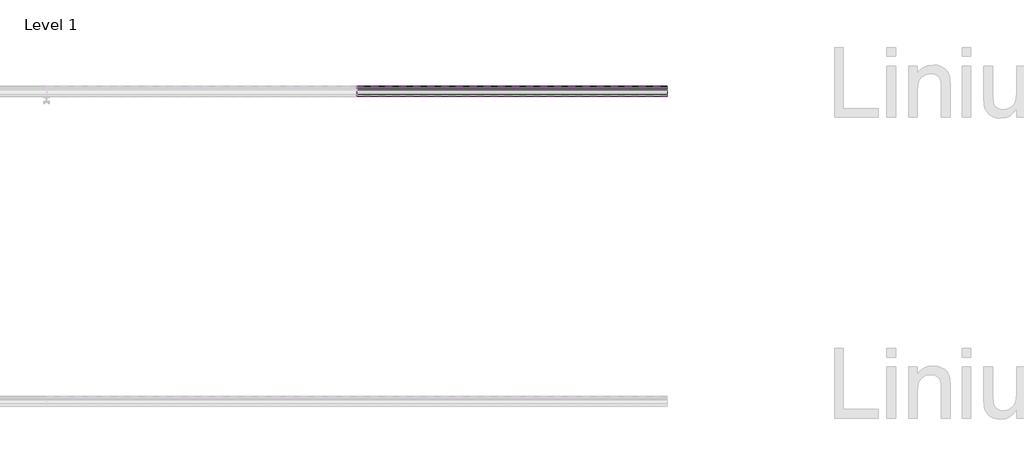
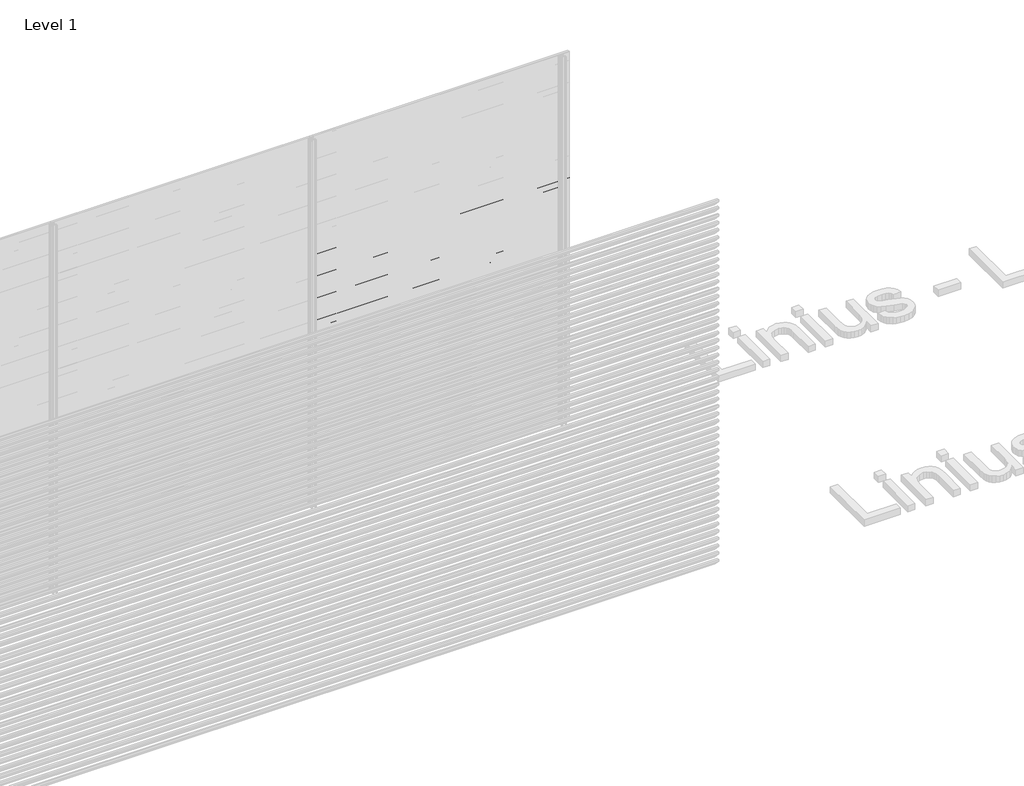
# One storey, part 60 of 153: 33 proxies.
"""IFC4 building model written with IfcOpenShell, lengths in millimetres."""

from ifc_helpers import new_model, si_unit, point, frame, frame_2d, origin, place, context, project, spatial, polyline, circle_curve, trimmed, segment, composite_curve, outline, extrude, element, save

model = new_model("IFC4")

# Units and contexts
model_context = context("Model", 3, world=origin())
ifc_project = project(units=[si_unit("LENGTHUNIT", "METRE", prefix="MILLI")], contexts=[model_context])

# Site, building, storey
site = spatial("IfcSite", under=ifc_project)
building = spatial("IfcBuilding", under=site)
storey = spatial("IfcBuildingStorey", under=building, Name="Level 1", Elevation=0.0)

# Proxies
placement = place(None, origin())
element("IfcBuildingElementProxy", 1, Name="Wall Sweeps", at=placement, inside=storey, context=model_context, shape_type="SweptSolid", body=[
    extrude(outline(composite_curve([segment(polyline([(21485.0540136, 2100.0), (21499.874191, 2098.7034025), (21549.0540136, 2045.0102749), (21549.0540136, 2033.6108187)]), True, "CONTINUOUS"), segment(trimmed(circle_curve(frame_2d((21545.7883652, 2033.897153)), 3.2781774), [point((21549.0540136, 2033.6108187))], [point((21546.4639442, 2030.6893438))], False, "CARTESIAN"), True, "CONTINUOUS"), segment(polyline([(21546.4639442, 2030.6893438), (21534.1895723, 2031.6282758), (21485.0540136, 2085.2730773), (21485.0540136, 2100.0)]), True, "CONTINUOUS")], self_intersect=False), holes=[composite_curve([segment(polyline([(21499.1621773, 2097.2599659), (21486.5540136, 2098.3630372), (21486.5540136, 2085.856213), (21534.8952036, 2033.0786805), (21546.3312542, 2032.2038762)]), True, "CONTINUOUS"), segment(trimmed(circle_curve(frame_2d((21545.7883652, 2033.897153)), 1.7781774), [point((21546.3312542, 2032.2038762))], [point((21547.5540136, 2033.6864389))], True, "CARTESIAN"), True, "CONTINUOUS"), segment(polyline([(21547.5540136, 2033.6864389), (21547.5540136, 2044.4271392), (21499.1621773, 2097.2599659)]), True, "CONTINUOUS")], self_intersect=False)]), frame((48966.6208096, 0.0, 0.0), z_axis=(1.0, 0.0, 0.0), x_axis=(0.0, 1.0, 0.0)), (0.0, 0.0, 1.0), 2000.0000001),
])
element("IfcBuildingElementProxy", 2, Name="Wall Sweeps", at=placement, inside=storey, context=model_context, shape_type="SweptSolid", body=[
    extrude(outline(composite_curve([segment(polyline([(21485.0540136, 2040.0), (21499.874191, 2038.7034025), (21549.0540136, 1985.0102749), (21549.0540136, 1973.6108187)]), True, "CONTINUOUS"), segment(trimmed(circle_curve(frame_2d((21545.7883652, 1973.897153)), 3.2781774), [point((21549.0540136, 1973.6108187))], [point((21546.4639442, 1970.6893438))], False, "CARTESIAN"), True, "CONTINUOUS"), segment(polyline([(21546.4639442, 1970.6893438), (21534.1895723, 1971.6282758), (21485.0540136, 2025.2730773), (21485.0540136, 2040.0)]), True, "CONTINUOUS")], self_intersect=False), holes=[composite_curve([segment(polyline([(21499.1621773, 2037.2599659), (21486.5540136, 2038.3630372), (21486.5540136, 2025.856213), (21534.8952036, 1973.0786805), (21546.3312542, 1972.2038762)]), True, "CONTINUOUS"), segment(trimmed(circle_curve(frame_2d((21545.7883652, 1973.897153)), 1.7781774), [point((21546.3312542, 1972.2038762))], [point((21547.5540136, 1973.6864389))], True, "CARTESIAN"), True, "CONTINUOUS"), segment(polyline([(21547.5540136, 1973.6864389), (21547.5540136, 1984.4271392), (21499.1621773, 2037.2599659)]), True, "CONTINUOUS")], self_intersect=False)]), frame((48966.6208096, 0.0, 0.0), z_axis=(1.0, 0.0, 0.0), x_axis=(0.0, 1.0, 0.0)), (0.0, 0.0, 1.0), 2000.0000001),
])
element("IfcBuildingElementProxy", 3, Name="Wall Sweeps", at=placement, inside=storey, context=model_context, shape_type="SweptSolid", body=[
    extrude(outline(composite_curve([segment(polyline([(21485.0540136, 1980.0), (21499.874191, 1978.7034025), (21549.0540136, 1925.0102749), (21549.0540136, 1913.6108187)]), True, "CONTINUOUS"), segment(trimmed(circle_curve(frame_2d((21545.7883652, 1913.897153)), 3.2781774), [point((21549.0540136, 1913.6108187))], [point((21546.4639442, 1910.6893438))], False, "CARTESIAN"), True, "CONTINUOUS"), segment(polyline([(21546.4639442, 1910.6893438), (21534.1895723, 1911.6282758), (21485.0540136, 1965.2730773), (21485.0540136, 1980.0)]), True, "CONTINUOUS")], self_intersect=False), holes=[composite_curve([segment(polyline([(21499.1621773, 1977.2599659), (21486.5540136, 1978.3630372), (21486.5540136, 1965.856213), (21534.8952036, 1913.0786805), (21546.3312542, 1912.2038762)]), True, "CONTINUOUS"), segment(trimmed(circle_curve(frame_2d((21545.7883652, 1913.897153)), 1.7781774), [point((21546.3312542, 1912.2038762))], [point((21547.5540136, 1913.6864389))], True, "CARTESIAN"), True, "CONTINUOUS"), segment(polyline([(21547.5540136, 1913.6864389), (21547.5540136, 1924.4271392), (21499.1621773, 1977.2599659)]), True, "CONTINUOUS")], self_intersect=False)]), frame((48966.6208096, 0.0, 0.0), z_axis=(1.0, 0.0, 0.0), x_axis=(0.0, 1.0, 0.0)), (0.0, 0.0, 1.0), 2000.0000001),
])
element("IfcBuildingElementProxy", 4, Name="Wall Sweeps", at=placement, inside=storey, context=model_context, shape_type="SweptSolid", body=[
    extrude(outline(composite_curve([segment(polyline([(21485.0540136, 1920.0), (21499.874191, 1918.7034025), (21549.0540136, 1865.0102749), (21549.0540136, 1853.6108187)]), True, "CONTINUOUS"), segment(trimmed(circle_curve(frame_2d((21545.7883652, 1853.897153)), 3.2781774), [point((21549.0540136, 1853.6108187))], [point((21546.4639442, 1850.6893438))], False, "CARTESIAN"), True, "CONTINUOUS"), segment(polyline([(21546.4639442, 1850.6893438), (21534.1895723, 1851.6282758), (21485.0540136, 1905.2730773), (21485.0540136, 1920.0)]), True, "CONTINUOUS")], self_intersect=False), holes=[composite_curve([segment(polyline([(21499.1621773, 1917.2599659), (21486.5540136, 1918.3630372), (21486.5540136, 1905.856213), (21534.8952036, 1853.0786805), (21546.3312542, 1852.2038762)]), True, "CONTINUOUS"), segment(trimmed(circle_curve(frame_2d((21545.7883652, 1853.897153)), 1.7781774), [point((21546.3312542, 1852.2038762))], [point((21547.5540136, 1853.6864389))], True, "CARTESIAN"), True, "CONTINUOUS"), segment(polyline([(21547.5540136, 1853.6864389), (21547.5540136, 1864.4271392), (21499.1621773, 1917.2599659)]), True, "CONTINUOUS")], self_intersect=False)]), frame((48966.6208096, 0.0, 0.0), z_axis=(1.0, 0.0, 0.0), x_axis=(0.0, 1.0, 0.0)), (0.0, 0.0, 1.0), 2000.0000001),
])
element("IfcBuildingElementProxy", 5, Name="Wall Sweeps", at=placement, inside=storey, context=model_context, shape_type="SweptSolid", body=[
    extrude(outline(composite_curve([segment(polyline([(21485.0540136, 1860.0), (21499.874191, 1858.7034025), (21549.0540136, 1805.0102749), (21549.0540136, 1793.6108187)]), True, "CONTINUOUS"), segment(trimmed(circle_curve(frame_2d((21545.7883652, 1793.897153)), 3.2781774), [point((21549.0540136, 1793.6108187))], [point((21546.4639442, 1790.6893438))], False, "CARTESIAN"), True, "CONTINUOUS"), segment(polyline([(21546.4639442, 1790.6893438), (21534.1895723, 1791.6282758), (21485.0540136, 1845.2730773), (21485.0540136, 1860.0)]), True, "CONTINUOUS")], self_intersect=False), holes=[composite_curve([segment(polyline([(21499.1621773, 1857.2599659), (21486.5540136, 1858.3630372), (21486.5540136, 1845.856213), (21534.8952036, 1793.0786805), (21546.3312542, 1792.2038762)]), True, "CONTINUOUS"), segment(trimmed(circle_curve(frame_2d((21545.7883652, 1793.897153)), 1.7781774), [point((21546.3312542, 1792.2038762))], [point((21547.5540136, 1793.6864389))], True, "CARTESIAN"), True, "CONTINUOUS"), segment(polyline([(21547.5540136, 1793.6864389), (21547.5540136, 1804.4271392), (21499.1621773, 1857.2599659)]), True, "CONTINUOUS")], self_intersect=False)]), frame((48966.6208096, 0.0, 0.0), z_axis=(1.0, 0.0, 0.0), x_axis=(0.0, 1.0, 0.0)), (0.0, 0.0, 1.0), 2000.0000001),
])
element("IfcBuildingElementProxy", 6, Name="Wall Sweeps", at=placement, inside=storey, context=model_context, shape_type="SweptSolid", body=[
    extrude(outline(composite_curve([segment(polyline([(21485.0540136, 1800.0), (21499.874191, 1798.7034025), (21549.0540136, 1745.0102749), (21549.0540136, 1733.6108187)]), True, "CONTINUOUS"), segment(trimmed(circle_curve(frame_2d((21545.7883652, 1733.897153)), 3.2781774), [point((21549.0540136, 1733.6108187))], [point((21546.4639442, 1730.6893438))], False, "CARTESIAN"), True, "CONTINUOUS"), segment(polyline([(21546.4639442, 1730.6893438), (21534.1895723, 1731.6282758), (21485.0540136, 1785.2730773), (21485.0540136, 1800.0)]), True, "CONTINUOUS")], self_intersect=False), holes=[composite_curve([segment(polyline([(21499.1621773, 1797.2599659), (21486.5540136, 1798.3630372), (21486.5540136, 1785.856213), (21534.8952036, 1733.0786805), (21546.3312542, 1732.2038762)]), True, "CONTINUOUS"), segment(trimmed(circle_curve(frame_2d((21545.7883652, 1733.897153)), 1.7781774), [point((21546.3312542, 1732.2038762))], [point((21547.5540136, 1733.6864389))], True, "CARTESIAN"), True, "CONTINUOUS"), segment(polyline([(21547.5540136, 1733.6864389), (21547.5540136, 1744.4271392), (21499.1621773, 1797.2599659)]), True, "CONTINUOUS")], self_intersect=False)]), frame((48966.6208096, 0.0, 0.0), z_axis=(1.0, 0.0, 0.0), x_axis=(0.0, 1.0, 0.0)), (0.0, 0.0, 1.0), 2000.0000001),
])
element("IfcBuildingElementProxy", 7, Name="Wall Sweeps", at=placement, inside=storey, context=model_context, shape_type="SweptSolid", body=[
    extrude(outline(composite_curve([segment(polyline([(21485.0540136, 1740.0), (21499.874191, 1738.7034025), (21549.0540136, 1685.0102749), (21549.0540136, 1673.6108187)]), True, "CONTINUOUS"), segment(trimmed(circle_curve(frame_2d((21545.7883652, 1673.897153)), 3.2781774), [point((21549.0540136, 1673.6108187))], [point((21546.4639442, 1670.6893438))], False, "CARTESIAN"), True, "CONTINUOUS"), segment(polyline([(21546.4639442, 1670.6893438), (21534.1895723, 1671.6282758), (21485.0540136, 1725.2730773), (21485.0540136, 1740.0)]), True, "CONTINUOUS")], self_intersect=False), holes=[composite_curve([segment(polyline([(21499.1621773, 1737.2599659), (21486.5540136, 1738.3630372), (21486.5540136, 1725.856213), (21534.8952036, 1673.0786805), (21546.3312542, 1672.2038762)]), True, "CONTINUOUS"), segment(trimmed(circle_curve(frame_2d((21545.7883652, 1673.897153)), 1.7781774), [point((21546.3312542, 1672.2038762))], [point((21547.5540136, 1673.6864389))], True, "CARTESIAN"), True, "CONTINUOUS"), segment(polyline([(21547.5540136, 1673.6864389), (21547.5540136, 1684.4271392), (21499.1621773, 1737.2599659)]), True, "CONTINUOUS")], self_intersect=False)]), frame((48966.6208096, 0.0, 0.0), z_axis=(1.0, 0.0, 0.0), x_axis=(0.0, 1.0, 0.0)), (0.0, 0.0, 1.0), 2000.0000001),
])
element("IfcBuildingElementProxy", 8, Name="Wall Sweeps", at=placement, inside=storey, context=model_context, shape_type="SweptSolid", body=[
    extrude(outline(composite_curve([segment(polyline([(21485.0540136, 1680.0), (21499.874191, 1678.7034025), (21549.0540136, 1625.0102749), (21549.0540136, 1613.6108187)]), True, "CONTINUOUS"), segment(trimmed(circle_curve(frame_2d((21545.7883652, 1613.897153)), 3.2781774), [point((21549.0540136, 1613.6108187))], [point((21546.4639442, 1610.6893438))], False, "CARTESIAN"), True, "CONTINUOUS"), segment(polyline([(21546.4639442, 1610.6893438), (21534.1895723, 1611.6282758), (21485.0540136, 1665.2730773), (21485.0540136, 1680.0)]), True, "CONTINUOUS")], self_intersect=False), holes=[composite_curve([segment(polyline([(21499.1621773, 1677.2599659), (21486.5540136, 1678.3630372), (21486.5540136, 1665.856213), (21534.8952036, 1613.0786805), (21546.3312542, 1612.2038762)]), True, "CONTINUOUS"), segment(trimmed(circle_curve(frame_2d((21545.7883652, 1613.897153)), 1.7781774), [point((21546.3312542, 1612.2038762))], [point((21547.5540136, 1613.6864389))], True, "CARTESIAN"), True, "CONTINUOUS"), segment(polyline([(21547.5540136, 1613.6864389), (21547.5540136, 1624.4271392), (21499.1621773, 1677.2599659)]), True, "CONTINUOUS")], self_intersect=False)]), frame((48966.6208096, 0.0, 0.0), z_axis=(1.0, 0.0, 0.0), x_axis=(0.0, 1.0, 0.0)), (0.0, 0.0, 1.0), 2000.0000001),
])
element("IfcBuildingElementProxy", 9, Name="Wall Sweeps", at=placement, inside=storey, context=model_context, shape_type="SweptSolid", body=[
    extrude(outline(composite_curve([segment(polyline([(21485.0540136, 1620.0), (21499.874191, 1618.7034025), (21549.0540136, 1565.0102749), (21549.0540136, 1553.6108187)]), True, "CONTINUOUS"), segment(trimmed(circle_curve(frame_2d((21545.7883652, 1553.897153)), 3.2781774), [point((21549.0540136, 1553.6108187))], [point((21546.4639442, 1550.6893438))], False, "CARTESIAN"), True, "CONTINUOUS"), segment(polyline([(21546.4639442, 1550.6893438), (21534.1895723, 1551.6282758), (21485.0540136, 1605.2730773), (21485.0540136, 1620.0)]), True, "CONTINUOUS")], self_intersect=False), holes=[composite_curve([segment(polyline([(21499.1621773, 1617.2599659), (21486.5540136, 1618.3630372), (21486.5540136, 1605.856213), (21534.8952036, 1553.0786805), (21546.3312542, 1552.2038762)]), True, "CONTINUOUS"), segment(trimmed(circle_curve(frame_2d((21545.7883652, 1553.897153)), 1.7781774), [point((21546.3312542, 1552.2038762))], [point((21547.5540136, 1553.6864389))], True, "CARTESIAN"), True, "CONTINUOUS"), segment(polyline([(21547.5540136, 1553.6864389), (21547.5540136, 1564.4271392), (21499.1621773, 1617.2599659)]), True, "CONTINUOUS")], self_intersect=False)]), frame((48966.6208096, 0.0, 0.0), z_axis=(1.0, 0.0, 0.0), x_axis=(0.0, 1.0, 0.0)), (0.0, 0.0, 1.0), 2000.0000001),
])
element("IfcBuildingElementProxy", 10, Name="Wall Sweeps", at=placement, inside=storey, context=model_context, shape_type="SweptSolid", body=[
    extrude(outline(composite_curve([segment(polyline([(21485.0540136, 1560.0), (21499.874191, 1558.7034025), (21549.0540136, 1505.0102749), (21549.0540136, 1493.6108187)]), True, "CONTINUOUS"), segment(trimmed(circle_curve(frame_2d((21545.7883652, 1493.897153)), 3.2781774), [point((21549.0540136, 1493.6108187))], [point((21546.4639442, 1490.6893438))], False, "CARTESIAN"), True, "CONTINUOUS"), segment(polyline([(21546.4639442, 1490.6893438), (21534.1895723, 1491.6282758), (21485.0540136, 1545.2730773), (21485.0540136, 1560.0)]), True, "CONTINUOUS")], self_intersect=False), holes=[composite_curve([segment(polyline([(21499.1621773, 1557.2599659), (21486.5540136, 1558.3630372), (21486.5540136, 1545.856213), (21534.8952036, 1493.0786805), (21546.3312542, 1492.2038762)]), True, "CONTINUOUS"), segment(trimmed(circle_curve(frame_2d((21545.7883652, 1493.897153)), 1.7781774), [point((21546.3312542, 1492.2038762))], [point((21547.5540136, 1493.6864389))], True, "CARTESIAN"), True, "CONTINUOUS"), segment(polyline([(21547.5540136, 1493.6864389), (21547.5540136, 1504.4271392), (21499.1621773, 1557.2599659)]), True, "CONTINUOUS")], self_intersect=False)]), frame((48966.6208096, 0.0, 0.0), z_axis=(1.0, 0.0, 0.0), x_axis=(0.0, 1.0, 0.0)), (0.0, 0.0, 1.0), 2000.0000001),
])
element("IfcBuildingElementProxy", 11, Name="Wall Sweeps", at=placement, inside=storey, context=model_context, shape_type="SweptSolid", body=[
    extrude(outline(composite_curve([segment(polyline([(21485.0540136, 1500.0), (21499.874191, 1498.7034025), (21549.0540136, 1445.0102749), (21549.0540136, 1433.6108187)]), True, "CONTINUOUS"), segment(trimmed(circle_curve(frame_2d((21545.7883652, 1433.897153)), 3.2781774), [point((21549.0540136, 1433.6108187))], [point((21546.4639442, 1430.6893438))], False, "CARTESIAN"), True, "CONTINUOUS"), segment(polyline([(21546.4639442, 1430.6893438), (21534.1895723, 1431.6282758), (21485.0540136, 1485.2730773), (21485.0540136, 1500.0)]), True, "CONTINUOUS")], self_intersect=False), holes=[composite_curve([segment(polyline([(21499.1621773, 1497.2599659), (21486.5540136, 1498.3630372), (21486.5540136, 1485.856213), (21534.8952036, 1433.0786805), (21546.3312542, 1432.2038762)]), True, "CONTINUOUS"), segment(trimmed(circle_curve(frame_2d((21545.7883652, 1433.897153)), 1.7781774), [point((21546.3312542, 1432.2038762))], [point((21547.5540136, 1433.6864389))], True, "CARTESIAN"), True, "CONTINUOUS"), segment(polyline([(21547.5540136, 1433.6864389), (21547.5540136, 1444.4271392), (21499.1621773, 1497.2599659)]), True, "CONTINUOUS")], self_intersect=False)]), frame((48966.6208096, 0.0, 0.0), z_axis=(1.0, 0.0, 0.0), x_axis=(0.0, 1.0, 0.0)), (0.0, 0.0, 1.0), 2000.0000001),
])
element("IfcBuildingElementProxy", 12, Name="Wall Sweeps", at=placement, inside=storey, context=model_context, shape_type="SweptSolid", body=[
    extrude(outline(composite_curve([segment(polyline([(21485.0540136, 1440.0), (21499.874191, 1438.7034025), (21549.0540136, 1385.0102749), (21549.0540136, 1373.6108187)]), True, "CONTINUOUS"), segment(trimmed(circle_curve(frame_2d((21545.7883652, 1373.897153)), 3.2781774), [point((21549.0540136, 1373.6108187))], [point((21546.4639442, 1370.6893438))], False, "CARTESIAN"), True, "CONTINUOUS"), segment(polyline([(21546.4639442, 1370.6893438), (21534.1895723, 1371.6282758), (21485.0540136, 1425.2730773), (21485.0540136, 1440.0)]), True, "CONTINUOUS")], self_intersect=False), holes=[composite_curve([segment(polyline([(21499.1621773, 1437.2599659), (21486.5540136, 1438.3630372), (21486.5540136, 1425.856213), (21534.8952036, 1373.0786805), (21546.3312542, 1372.2038762)]), True, "CONTINUOUS"), segment(trimmed(circle_curve(frame_2d((21545.7883652, 1373.897153)), 1.7781774), [point((21546.3312542, 1372.2038762))], [point((21547.5540136, 1373.6864389))], True, "CARTESIAN"), True, "CONTINUOUS"), segment(polyline([(21547.5540136, 1373.6864389), (21547.5540136, 1384.4271392), (21499.1621773, 1437.2599659)]), True, "CONTINUOUS")], self_intersect=False)]), frame((48966.6208096, 0.0, 0.0), z_axis=(1.0, 0.0, 0.0), x_axis=(0.0, 1.0, 0.0)), (0.0, 0.0, 1.0), 2000.0000001),
])
element("IfcBuildingElementProxy", 13, Name="Wall Sweeps", at=placement, inside=storey, context=model_context, shape_type="SweptSolid", body=[
    extrude(outline(composite_curve([segment(polyline([(21485.0540136, 1380.0), (21499.874191, 1378.7034025), (21549.0540136, 1325.0102749), (21549.0540136, 1313.6108187)]), True, "CONTINUOUS"), segment(trimmed(circle_curve(frame_2d((21545.7883652, 1313.897153)), 3.2781774), [point((21549.0540136, 1313.6108187))], [point((21546.4639442, 1310.6893438))], False, "CARTESIAN"), True, "CONTINUOUS"), segment(polyline([(21546.4639442, 1310.6893438), (21534.1895723, 1311.6282758), (21485.0540136, 1365.2730773), (21485.0540136, 1380.0)]), True, "CONTINUOUS")], self_intersect=False), holes=[composite_curve([segment(polyline([(21499.1621773, 1377.2599659), (21486.5540136, 1378.3630372), (21486.5540136, 1365.856213), (21534.8952036, 1313.0786805), (21546.3312542, 1312.2038762)]), True, "CONTINUOUS"), segment(trimmed(circle_curve(frame_2d((21545.7883652, 1313.897153)), 1.7781774), [point((21546.3312542, 1312.2038762))], [point((21547.5540136, 1313.6864389))], True, "CARTESIAN"), True, "CONTINUOUS"), segment(polyline([(21547.5540136, 1313.6864389), (21547.5540136, 1324.4271392), (21499.1621773, 1377.2599659)]), True, "CONTINUOUS")], self_intersect=False)]), frame((48966.6208096, 0.0, 0.0), z_axis=(1.0, 0.0, 0.0), x_axis=(0.0, 1.0, 0.0)), (0.0, 0.0, 1.0), 2000.0000001),
])
element("IfcBuildingElementProxy", 14, Name="Wall Sweeps", at=placement, inside=storey, context=model_context, shape_type="SweptSolid", body=[
    extrude(outline(composite_curve([segment(polyline([(21485.0540136, 1320.0), (21499.874191, 1318.7034025), (21549.0540136, 1265.0102749), (21549.0540136, 1253.6108187)]), True, "CONTINUOUS"), segment(trimmed(circle_curve(frame_2d((21545.7883652, 1253.897153)), 3.2781774), [point((21549.0540136, 1253.6108187))], [point((21546.4639442, 1250.6893438))], False, "CARTESIAN"), True, "CONTINUOUS"), segment(polyline([(21546.4639442, 1250.6893438), (21534.1895723, 1251.6282758), (21485.0540136, 1305.2730773), (21485.0540136, 1320.0)]), True, "CONTINUOUS")], self_intersect=False), holes=[composite_curve([segment(polyline([(21499.1621773, 1317.2599659), (21486.5540136, 1318.3630372), (21486.5540136, 1305.856213), (21534.8952036, 1253.0786805), (21546.3312542, 1252.2038762)]), True, "CONTINUOUS"), segment(trimmed(circle_curve(frame_2d((21545.7883652, 1253.897153)), 1.7781774), [point((21546.3312542, 1252.2038762))], [point((21547.5540136, 1253.6864389))], True, "CARTESIAN"), True, "CONTINUOUS"), segment(polyline([(21547.5540136, 1253.6864389), (21547.5540136, 1264.4271392), (21499.1621773, 1317.2599659)]), True, "CONTINUOUS")], self_intersect=False)]), frame((48966.6208096, 0.0, 0.0), z_axis=(1.0, 0.0, 0.0), x_axis=(0.0, 1.0, 0.0)), (0.0, 0.0, 1.0), 2000.0000001),
])
element("IfcBuildingElementProxy", 15, Name="Wall Sweeps", at=placement, inside=storey, context=model_context, shape_type="SweptSolid", body=[
    extrude(outline(composite_curve([segment(polyline([(21485.0540136, 1260.0), (21499.874191, 1258.7034025), (21549.0540136, 1205.0102749), (21549.0540136, 1193.6108187)]), True, "CONTINUOUS"), segment(trimmed(circle_curve(frame_2d((21545.7883652, 1193.897153)), 3.2781774), [point((21549.0540136, 1193.6108187))], [point((21546.4639442, 1190.6893438))], False, "CARTESIAN"), True, "CONTINUOUS"), segment(polyline([(21546.4639442, 1190.6893438), (21534.1895723, 1191.6282758), (21485.0540136, 1245.2730773), (21485.0540136, 1260.0)]), True, "CONTINUOUS")], self_intersect=False), holes=[composite_curve([segment(polyline([(21499.1621773, 1257.2599659), (21486.5540136, 1258.3630372), (21486.5540136, 1245.856213), (21534.8952036, 1193.0786805), (21546.3312542, 1192.2038762)]), True, "CONTINUOUS"), segment(trimmed(circle_curve(frame_2d((21545.7883652, 1193.897153)), 1.7781774), [point((21546.3312542, 1192.2038762))], [point((21547.5540136, 1193.6864389))], True, "CARTESIAN"), True, "CONTINUOUS"), segment(polyline([(21547.5540136, 1193.6864389), (21547.5540136, 1204.4271392), (21499.1621773, 1257.2599659)]), True, "CONTINUOUS")], self_intersect=False)]), frame((48966.6208096, 0.0, 0.0), z_axis=(1.0, 0.0, 0.0), x_axis=(0.0, 1.0, 0.0)), (0.0, 0.0, 1.0), 2000.0000001),
])
element("IfcBuildingElementProxy", 16, Name="Wall Sweeps", at=placement, inside=storey, context=model_context, shape_type="SweptSolid", body=[
    extrude(outline(composite_curve([segment(polyline([(21485.0540136, 1200.0), (21499.874191, 1198.7034025), (21549.0540136, 1145.0102749), (21549.0540136, 1133.6108187)]), True, "CONTINUOUS"), segment(trimmed(circle_curve(frame_2d((21545.7883652, 1133.897153)), 3.2781774), [point((21549.0540136, 1133.6108187))], [point((21546.4639442, 1130.6893438))], False, "CARTESIAN"), True, "CONTINUOUS"), segment(polyline([(21546.4639442, 1130.6893438), (21534.1895723, 1131.6282758), (21485.0540136, 1185.2730773), (21485.0540136, 1200.0)]), True, "CONTINUOUS")], self_intersect=False), holes=[composite_curve([segment(polyline([(21499.1621773, 1197.2599659), (21486.5540136, 1198.3630372), (21486.5540136, 1185.856213), (21534.8952036, 1133.0786805), (21546.3312542, 1132.2038762)]), True, "CONTINUOUS"), segment(trimmed(circle_curve(frame_2d((21545.7883652, 1133.897153)), 1.7781774), [point((21546.3312542, 1132.2038762))], [point((21547.5540136, 1133.6864389))], True, "CARTESIAN"), True, "CONTINUOUS"), segment(polyline([(21547.5540136, 1133.6864389), (21547.5540136, 1144.4271392), (21499.1621773, 1197.2599659)]), True, "CONTINUOUS")], self_intersect=False)]), frame((48966.6208096, 0.0, 0.0), z_axis=(1.0, 0.0, 0.0), x_axis=(0.0, 1.0, 0.0)), (0.0, 0.0, 1.0), 2000.0000001),
])
element("IfcBuildingElementProxy", 17, Name="Wall Sweeps", at=placement, inside=storey, context=model_context, shape_type="SweptSolid", body=[
    extrude(outline(composite_curve([segment(polyline([(21485.0540136, 1140.0), (21499.874191, 1138.7034025), (21549.0540136, 1085.0102749), (21549.0540136, 1073.6108187)]), True, "CONTINUOUS"), segment(trimmed(circle_curve(frame_2d((21545.7883652, 1073.897153)), 3.2781774), [point((21549.0540136, 1073.6108187))], [point((21546.4639442, 1070.6893438))], False, "CARTESIAN"), True, "CONTINUOUS"), segment(polyline([(21546.4639442, 1070.6893438), (21534.1895723, 1071.6282758), (21485.0540136, 1125.2730773), (21485.0540136, 1140.0)]), True, "CONTINUOUS")], self_intersect=False), holes=[composite_curve([segment(polyline([(21499.1621773, 1137.2599659), (21486.5540136, 1138.3630372), (21486.5540136, 1125.856213), (21534.8952036, 1073.0786805), (21546.3312542, 1072.2038762)]), True, "CONTINUOUS"), segment(trimmed(circle_curve(frame_2d((21545.7883652, 1073.897153)), 1.7781774), [point((21546.3312542, 1072.2038762))], [point((21547.5540136, 1073.6864389))], True, "CARTESIAN"), True, "CONTINUOUS"), segment(polyline([(21547.5540136, 1073.6864389), (21547.5540136, 1084.4271392), (21499.1621773, 1137.2599659)]), True, "CONTINUOUS")], self_intersect=False)]), frame((48966.6208096, 0.0, 0.0), z_axis=(1.0, 0.0, 0.0), x_axis=(0.0, 1.0, 0.0)), (0.0, 0.0, 1.0), 2000.0000001),
])
element("IfcBuildingElementProxy", 18, Name="Wall Sweeps", at=placement, inside=storey, context=model_context, shape_type="SweptSolid", body=[
    extrude(outline(composite_curve([segment(polyline([(21485.0540136, 1080.0), (21499.874191, 1078.7034025), (21549.0540136, 1025.0102749), (21549.0540136, 1013.6108187)]), True, "CONTINUOUS"), segment(trimmed(circle_curve(frame_2d((21545.7883652, 1013.897153)), 3.2781774), [point((21549.0540136, 1013.6108187))], [point((21546.4639442, 1010.6893438))], False, "CARTESIAN"), True, "CONTINUOUS"), segment(polyline([(21546.4639442, 1010.6893438), (21534.1895723, 1011.6282758), (21485.0540136, 1065.2730773), (21485.0540136, 1080.0)]), True, "CONTINUOUS")], self_intersect=False), holes=[composite_curve([segment(polyline([(21499.1621773, 1077.2599659), (21486.5540136, 1078.3630372), (21486.5540136, 1065.856213), (21534.8952036, 1013.0786805), (21546.3312542, 1012.2038762)]), True, "CONTINUOUS"), segment(trimmed(circle_curve(frame_2d((21545.7883652, 1013.897153)), 1.7781774), [point((21546.3312542, 1012.2038762))], [point((21547.5540136, 1013.6864389))], True, "CARTESIAN"), True, "CONTINUOUS"), segment(polyline([(21547.5540136, 1013.6864389), (21547.5540136, 1024.4271392), (21499.1621773, 1077.2599659)]), True, "CONTINUOUS")], self_intersect=False)]), frame((48966.6208096, 0.0, 0.0), z_axis=(1.0, 0.0, 0.0), x_axis=(0.0, 1.0, 0.0)), (0.0, 0.0, 1.0), 2000.0000001),
])
element("IfcBuildingElementProxy", 19, Name="Wall Sweeps", at=placement, inside=storey, context=model_context, shape_type="SweptSolid", body=[
    extrude(outline(composite_curve([segment(polyline([(21485.0540136, 1020.0), (21499.874191, 1018.7034025), (21549.0540136, 965.0102749), (21549.0540136, 953.6108187)]), True, "CONTINUOUS"), segment(trimmed(circle_curve(frame_2d((21545.7883652, 953.897153)), 3.2781774), [point((21549.0540136, 953.6108187))], [point((21546.4639442, 950.6893438))], False, "CARTESIAN"), True, "CONTINUOUS"), segment(polyline([(21546.4639442, 950.6893438), (21534.1895723, 951.6282758), (21485.0540136, 1005.2730773), (21485.0540136, 1020.0)]), True, "CONTINUOUS")], self_intersect=False), holes=[composite_curve([segment(polyline([(21499.1621773, 1017.2599659), (21486.5540136, 1018.3630372), (21486.5540136, 1005.856213), (21534.8952036, 953.0786805), (21546.3312542, 952.2038762)]), True, "CONTINUOUS"), segment(trimmed(circle_curve(frame_2d((21545.7883652, 953.897153)), 1.7781774), [point((21546.3312542, 952.2038762))], [point((21547.5540136, 953.6864389))], True, "CARTESIAN"), True, "CONTINUOUS"), segment(polyline([(21547.5540136, 953.6864389), (21547.5540136, 964.4271392), (21499.1621773, 1017.2599659)]), True, "CONTINUOUS")], self_intersect=False)]), frame((48966.6208096, 0.0, 0.0), z_axis=(1.0, 0.0, 0.0), x_axis=(0.0, 1.0, 0.0)), (0.0, 0.0, 1.0), 2000.0000001),
])
element("IfcBuildingElementProxy", 20, Name="Wall Sweeps", at=placement, inside=storey, context=model_context, shape_type="SweptSolid", body=[
    extrude(outline(composite_curve([segment(polyline([(21485.0540136, 960.0), (21499.874191, 958.7034025), (21549.0540136, 905.0102749), (21549.0540136, 893.6108187)]), True, "CONTINUOUS"), segment(trimmed(circle_curve(frame_2d((21545.7883652, 893.897153)), 3.2781774), [point((21549.0540136, 893.6108187))], [point((21546.4639442, 890.6893438))], False, "CARTESIAN"), True, "CONTINUOUS"), segment(polyline([(21546.4639442, 890.6893438), (21534.1895723, 891.6282758), (21485.0540136, 945.2730773), (21485.0540136, 960.0)]), True, "CONTINUOUS")], self_intersect=False), holes=[composite_curve([segment(polyline([(21499.1621773, 957.2599659), (21486.5540136, 958.3630372), (21486.5540136, 945.856213), (21534.8952036, 893.0786805), (21546.3312542, 892.2038762)]), True, "CONTINUOUS"), segment(trimmed(circle_curve(frame_2d((21545.7883652, 893.897153)), 1.7781774), [point((21546.3312542, 892.2038762))], [point((21547.5540136, 893.6864389))], True, "CARTESIAN"), True, "CONTINUOUS"), segment(polyline([(21547.5540136, 893.6864389), (21547.5540136, 904.4271392), (21499.1621773, 957.2599659)]), True, "CONTINUOUS")], self_intersect=False)]), frame((48966.6208096, 0.0, 0.0), z_axis=(1.0, 0.0, 0.0), x_axis=(0.0, 1.0, 0.0)), (0.0, 0.0, 1.0), 2000.0000001),
])
element("IfcBuildingElementProxy", 21, Name="Wall Sweeps", at=placement, inside=storey, context=model_context, shape_type="SweptSolid", body=[
    extrude(outline(composite_curve([segment(polyline([(21485.0540136, 900.0), (21499.874191, 898.7034025), (21549.0540136, 845.0102749), (21549.0540136, 833.6108187)]), True, "CONTINUOUS"), segment(trimmed(circle_curve(frame_2d((21545.7883652, 833.897153)), 3.2781774), [point((21549.0540136, 833.6108187))], [point((21546.4639442, 830.6893438))], False, "CARTESIAN"), True, "CONTINUOUS"), segment(polyline([(21546.4639442, 830.6893438), (21534.1895723, 831.6282758), (21485.0540136, 885.2730773), (21485.0540136, 900.0)]), True, "CONTINUOUS")], self_intersect=False), holes=[composite_curve([segment(polyline([(21499.1621773, 897.2599659), (21486.5540136, 898.3630372), (21486.5540136, 885.856213), (21534.8952036, 833.0786805), (21546.3312542, 832.2038762)]), True, "CONTINUOUS"), segment(trimmed(circle_curve(frame_2d((21545.7883652, 833.897153)), 1.7781774), [point((21546.3312542, 832.2038762))], [point((21547.5540136, 833.6864389))], True, "CARTESIAN"), True, "CONTINUOUS"), segment(polyline([(21547.5540136, 833.6864389), (21547.5540136, 844.4271392), (21499.1621773, 897.2599659)]), True, "CONTINUOUS")], self_intersect=False)]), frame((48966.6208096, 0.0, 0.0), z_axis=(1.0, 0.0, 0.0), x_axis=(0.0, 1.0, 0.0)), (0.0, 0.0, 1.0), 2000.0000001),
])
element("IfcBuildingElementProxy", 22, Name="Wall Sweeps", at=placement, inside=storey, context=model_context, shape_type="SweptSolid", body=[
    extrude(outline(composite_curve([segment(polyline([(21485.0540136, 840.0), (21499.874191, 838.7034025), (21549.0540136, 785.0102749), (21549.0540136, 773.6108187)]), True, "CONTINUOUS"), segment(trimmed(circle_curve(frame_2d((21545.7883652, 773.897153)), 3.2781774), [point((21549.0540136, 773.6108187))], [point((21546.4639442, 770.6893438))], False, "CARTESIAN"), True, "CONTINUOUS"), segment(polyline([(21546.4639442, 770.6893438), (21534.1895723, 771.6282758), (21485.0540136, 825.2730773), (21485.0540136, 840.0)]), True, "CONTINUOUS")], self_intersect=False), holes=[composite_curve([segment(polyline([(21499.1621773, 837.2599659), (21486.5540136, 838.3630372), (21486.5540136, 825.856213), (21534.8952036, 773.0786805), (21546.3312542, 772.2038762)]), True, "CONTINUOUS"), segment(trimmed(circle_curve(frame_2d((21545.7883652, 773.897153)), 1.7781774), [point((21546.3312542, 772.2038762))], [point((21547.5540136, 773.6864389))], True, "CARTESIAN"), True, "CONTINUOUS"), segment(polyline([(21547.5540136, 773.6864389), (21547.5540136, 784.4271392), (21499.1621773, 837.2599659)]), True, "CONTINUOUS")], self_intersect=False)]), frame((48966.6208096, 0.0, 0.0), z_axis=(1.0, 0.0, 0.0), x_axis=(0.0, 1.0, 0.0)), (0.0, 0.0, 1.0), 2000.0000001),
])
element("IfcBuildingElementProxy", 23, Name="Wall Sweeps", at=placement, inside=storey, context=model_context, shape_type="SweptSolid", body=[
    extrude(outline(composite_curve([segment(polyline([(21485.0540136, 780.0), (21499.874191, 778.7034025), (21549.0540136, 725.0102749), (21549.0540136, 713.6108187)]), True, "CONTINUOUS"), segment(trimmed(circle_curve(frame_2d((21545.7883652, 713.897153)), 3.2781774), [point((21549.0540136, 713.6108187))], [point((21546.4639442, 710.6893438))], False, "CARTESIAN"), True, "CONTINUOUS"), segment(polyline([(21546.4639442, 710.6893438), (21534.1895723, 711.6282758), (21485.0540136, 765.2730773), (21485.0540136, 780.0)]), True, "CONTINUOUS")], self_intersect=False), holes=[composite_curve([segment(polyline([(21499.1621773, 777.2599659), (21486.5540136, 778.3630372), (21486.5540136, 765.856213), (21534.8952036, 713.0786805), (21546.3312542, 712.2038762)]), True, "CONTINUOUS"), segment(trimmed(circle_curve(frame_2d((21545.7883652, 713.897153)), 1.7781774), [point((21546.3312542, 712.2038762))], [point((21547.5540136, 713.6864389))], True, "CARTESIAN"), True, "CONTINUOUS"), segment(polyline([(21547.5540136, 713.6864389), (21547.5540136, 724.4271392), (21499.1621773, 777.2599659)]), True, "CONTINUOUS")], self_intersect=False)]), frame((48966.6208096, 0.0, 0.0), z_axis=(1.0, 0.0, 0.0), x_axis=(0.0, 1.0, 0.0)), (0.0, 0.0, 1.0), 2000.0000001),
])
element("IfcBuildingElementProxy", 24, Name="Wall Sweeps", at=placement, inside=storey, context=model_context, shape_type="SweptSolid", body=[
    extrude(outline(composite_curve([segment(polyline([(21485.0540136, 720.0), (21499.874191, 718.7034025), (21549.0540136, 665.0102749), (21549.0540136, 653.6108187)]), True, "CONTINUOUS"), segment(trimmed(circle_curve(frame_2d((21545.7883652, 653.897153)), 3.2781774), [point((21549.0540136, 653.6108187))], [point((21546.4639442, 650.6893438))], False, "CARTESIAN"), True, "CONTINUOUS"), segment(polyline([(21546.4639442, 650.6893438), (21534.1895723, 651.6282758), (21485.0540136, 705.2730773), (21485.0540136, 720.0)]), True, "CONTINUOUS")], self_intersect=False), holes=[composite_curve([segment(polyline([(21499.1621773, 717.2599659), (21486.5540136, 718.3630372), (21486.5540136, 705.856213), (21534.8952036, 653.0786805), (21546.3312542, 652.2038762)]), True, "CONTINUOUS"), segment(trimmed(circle_curve(frame_2d((21545.7883652, 653.897153)), 1.7781774), [point((21546.3312542, 652.2038762))], [point((21547.5540136, 653.6864389))], True, "CARTESIAN"), True, "CONTINUOUS"), segment(polyline([(21547.5540136, 653.6864389), (21547.5540136, 664.4271392), (21499.1621773, 717.2599659)]), True, "CONTINUOUS")], self_intersect=False)]), frame((48966.6208096, 0.0, 0.0), z_axis=(1.0, 0.0, 0.0), x_axis=(0.0, 1.0, 0.0)), (0.0, 0.0, 1.0), 2000.0000001),
])
element("IfcBuildingElementProxy", 25, Name="Wall Sweeps", at=placement, inside=storey, context=model_context, shape_type="SweptSolid", body=[
    extrude(outline(composite_curve([segment(polyline([(21485.0540136, 660.0), (21499.874191, 658.7034025), (21549.0540136, 605.0102749), (21549.0540136, 593.6108187)]), True, "CONTINUOUS"), segment(trimmed(circle_curve(frame_2d((21545.7883652, 593.897153)), 3.2781774), [point((21549.0540136, 593.6108187))], [point((21546.4639442, 590.6893438))], False, "CARTESIAN"), True, "CONTINUOUS"), segment(polyline([(21546.4639442, 590.6893438), (21534.1895723, 591.6282758), (21485.0540136, 645.2730773), (21485.0540136, 660.0)]), True, "CONTINUOUS")], self_intersect=False), holes=[composite_curve([segment(polyline([(21499.1621773, 657.2599659), (21486.5540136, 658.3630372), (21486.5540136, 645.856213), (21534.8952036, 593.0786805), (21546.3312542, 592.2038762)]), True, "CONTINUOUS"), segment(trimmed(circle_curve(frame_2d((21545.7883652, 593.897153)), 1.7781774), [point((21546.3312542, 592.2038762))], [point((21547.5540136, 593.6864389))], True, "CARTESIAN"), True, "CONTINUOUS"), segment(polyline([(21547.5540136, 593.6864389), (21547.5540136, 604.4271392), (21499.1621773, 657.2599659)]), True, "CONTINUOUS")], self_intersect=False)]), frame((48966.6208096, 0.0, 0.0), z_axis=(1.0, 0.0, 0.0), x_axis=(0.0, 1.0, 0.0)), (0.0, 0.0, 1.0), 2000.0000001),
])
element("IfcBuildingElementProxy", 26, Name="Wall Sweeps", at=placement, inside=storey, context=model_context, shape_type="SweptSolid", body=[
    extrude(outline(composite_curve([segment(polyline([(21485.0540136, 600.0), (21499.874191, 598.7034025), (21549.0540136, 545.0102749), (21549.0540136, 533.6108187)]), True, "CONTINUOUS"), segment(trimmed(circle_curve(frame_2d((21545.7883652, 533.897153)), 3.2781774), [point((21549.0540136, 533.6108187))], [point((21546.4639442, 530.6893438))], False, "CARTESIAN"), True, "CONTINUOUS"), segment(polyline([(21546.4639442, 530.6893438), (21534.1895723, 531.6282758), (21485.0540136, 585.2730773), (21485.0540136, 600.0)]), True, "CONTINUOUS")], self_intersect=False), holes=[composite_curve([segment(polyline([(21499.1621773, 597.2599659), (21486.5540136, 598.3630372), (21486.5540136, 585.856213), (21534.8952036, 533.0786805), (21546.3312542, 532.2038762)]), True, "CONTINUOUS"), segment(trimmed(circle_curve(frame_2d((21545.7883652, 533.897153)), 1.7781774), [point((21546.3312542, 532.2038762))], [point((21547.5540136, 533.6864389))], True, "CARTESIAN"), True, "CONTINUOUS"), segment(polyline([(21547.5540136, 533.6864389), (21547.5540136, 544.4271392), (21499.1621773, 597.2599659)]), True, "CONTINUOUS")], self_intersect=False)]), frame((48966.6208096, 0.0, 0.0), z_axis=(1.0, 0.0, 0.0), x_axis=(0.0, 1.0, 0.0)), (0.0, 0.0, 1.0), 2000.0000001),
])
element("IfcBuildingElementProxy", 27, Name="Wall Sweeps", at=placement, inside=storey, context=model_context, shape_type="SweptSolid", body=[
    extrude(outline(composite_curve([segment(polyline([(21485.0540136, 540.0), (21499.874191, 538.7034025), (21549.0540136, 485.0102749), (21549.0540136, 473.6108187)]), True, "CONTINUOUS"), segment(trimmed(circle_curve(frame_2d((21545.7883652, 473.897153)), 3.2781774), [point((21549.0540136, 473.6108187))], [point((21546.4639442, 470.6893438))], False, "CARTESIAN"), True, "CONTINUOUS"), segment(polyline([(21546.4639442, 470.6893438), (21534.1895723, 471.6282758), (21485.0540136, 525.2730773), (21485.0540136, 540.0)]), True, "CONTINUOUS")], self_intersect=False), holes=[composite_curve([segment(polyline([(21499.1621773, 537.2599659), (21486.5540136, 538.3630372), (21486.5540136, 525.856213), (21534.8952036, 473.0786805), (21546.3312542, 472.2038762)]), True, "CONTINUOUS"), segment(trimmed(circle_curve(frame_2d((21545.7883652, 473.897153)), 1.7781774), [point((21546.3312542, 472.2038762))], [point((21547.5540136, 473.6864389))], True, "CARTESIAN"), True, "CONTINUOUS"), segment(polyline([(21547.5540136, 473.6864389), (21547.5540136, 484.4271392), (21499.1621773, 537.2599659)]), True, "CONTINUOUS")], self_intersect=False)]), frame((48966.6208096, 0.0, 0.0), z_axis=(1.0, 0.0, 0.0), x_axis=(0.0, 1.0, 0.0)), (0.0, 0.0, 1.0), 2000.0000001),
])
element("IfcBuildingElementProxy", 28, Name="Wall Sweeps", at=placement, inside=storey, context=model_context, shape_type="SweptSolid", body=[
    extrude(outline(composite_curve([segment(polyline([(21485.0540136, 480.0), (21499.874191, 478.7034025), (21549.0540136, 425.0102749), (21549.0540136, 413.6108187)]), True, "CONTINUOUS"), segment(trimmed(circle_curve(frame_2d((21545.7883652, 413.897153)), 3.2781774), [point((21549.0540136, 413.6108187))], [point((21546.4639442, 410.6893438))], False, "CARTESIAN"), True, "CONTINUOUS"), segment(polyline([(21546.4639442, 410.6893438), (21534.1895723, 411.6282758), (21485.0540136, 465.2730773), (21485.0540136, 480.0)]), True, "CONTINUOUS")], self_intersect=False), holes=[composite_curve([segment(polyline([(21499.1621773, 477.2599659), (21486.5540136, 478.3630372), (21486.5540136, 465.856213), (21534.8952036, 413.0786805), (21546.3312542, 412.2038762)]), True, "CONTINUOUS"), segment(trimmed(circle_curve(frame_2d((21545.7883652, 413.897153)), 1.7781774), [point((21546.3312542, 412.2038762))], [point((21547.5540136, 413.6864389))], True, "CARTESIAN"), True, "CONTINUOUS"), segment(polyline([(21547.5540136, 413.6864389), (21547.5540136, 424.4271392), (21499.1621773, 477.2599659)]), True, "CONTINUOUS")], self_intersect=False)]), frame((48966.6208096, 0.0, 0.0), z_axis=(1.0, 0.0, 0.0), x_axis=(0.0, 1.0, 0.0)), (0.0, 0.0, 1.0), 2000.0000001),
])
element("IfcBuildingElementProxy", 29, Name="Wall Sweeps", at=placement, inside=storey, context=model_context, shape_type="SweptSolid", body=[
    extrude(outline(composite_curve([segment(polyline([(21485.0540136, 420.0), (21499.874191, 418.7034025), (21549.0540136, 365.0102749), (21549.0540136, 353.6108187)]), True, "CONTINUOUS"), segment(trimmed(circle_curve(frame_2d((21545.7883652, 353.897153)), 3.2781774), [point((21549.0540136, 353.6108187))], [point((21546.4639442, 350.6893438))], False, "CARTESIAN"), True, "CONTINUOUS"), segment(polyline([(21546.4639442, 350.6893438), (21534.1895723, 351.6282758), (21485.0540136, 405.2730773), (21485.0540136, 420.0)]), True, "CONTINUOUS")], self_intersect=False), holes=[composite_curve([segment(polyline([(21499.1621773, 417.2599659), (21486.5540136, 418.3630372), (21486.5540136, 405.856213), (21534.8952036, 353.0786805), (21546.3312542, 352.2038762)]), True, "CONTINUOUS"), segment(trimmed(circle_curve(frame_2d((21545.7883652, 353.897153)), 1.7781774), [point((21546.3312542, 352.2038762))], [point((21547.5540136, 353.6864389))], True, "CARTESIAN"), True, "CONTINUOUS"), segment(polyline([(21547.5540136, 353.6864389), (21547.5540136, 364.4271392), (21499.1621773, 417.2599659)]), True, "CONTINUOUS")], self_intersect=False)]), frame((48966.6208096, 0.0, 0.0), z_axis=(1.0, 0.0, 0.0), x_axis=(0.0, 1.0, 0.0)), (0.0, 0.0, 1.0), 2000.0000001),
])
element("IfcBuildingElementProxy", 30, Name="Wall Sweeps", at=placement, inside=storey, context=model_context, shape_type="SweptSolid", body=[
    extrude(outline(composite_curve([segment(polyline([(21485.0540136, 360.0), (21499.874191, 358.7034025), (21549.0540136, 305.0102749), (21549.0540136, 293.6108187)]), True, "CONTINUOUS"), segment(trimmed(circle_curve(frame_2d((21545.7883652, 293.897153)), 3.2781774), [point((21549.0540136, 293.6108187))], [point((21546.4639442, 290.6893438))], False, "CARTESIAN"), True, "CONTINUOUS"), segment(polyline([(21546.4639442, 290.6893438), (21534.1895723, 291.6282758), (21485.0540136, 345.2730773), (21485.0540136, 360.0)]), True, "CONTINUOUS")], self_intersect=False), holes=[composite_curve([segment(polyline([(21499.1621773, 357.2599659), (21486.5540136, 358.3630372), (21486.5540136, 345.856213), (21534.8952036, 293.0786805), (21546.3312542, 292.2038762)]), True, "CONTINUOUS"), segment(trimmed(circle_curve(frame_2d((21545.7883652, 293.897153)), 1.7781774), [point((21546.3312542, 292.2038762))], [point((21547.5540136, 293.6864389))], True, "CARTESIAN"), True, "CONTINUOUS"), segment(polyline([(21547.5540136, 293.6864389), (21547.5540136, 304.4271392), (21499.1621773, 357.2599659)]), True, "CONTINUOUS")], self_intersect=False)]), frame((48966.6208096, 0.0, 0.0), z_axis=(1.0, 0.0, 0.0), x_axis=(0.0, 1.0, 0.0)), (0.0, 0.0, 1.0), 2000.0000001),
])
element("IfcBuildingElementProxy", 31, Name="Wall Sweeps", at=placement, inside=storey, context=model_context, shape_type="SweptSolid", body=[
    extrude(outline(composite_curve([segment(polyline([(21485.0540136, 300.0), (21499.874191, 298.7034025), (21549.0540136, 245.0102749), (21549.0540136, 233.6108187)]), True, "CONTINUOUS"), segment(trimmed(circle_curve(frame_2d((21545.7883652, 233.897153)), 3.2781774), [point((21549.0540136, 233.6108187))], [point((21546.4639442, 230.6893438))], False, "CARTESIAN"), True, "CONTINUOUS"), segment(polyline([(21546.4639442, 230.6893438), (21534.1895723, 231.6282758), (21485.0540136, 285.2730773), (21485.0540136, 300.0)]), True, "CONTINUOUS")], self_intersect=False), holes=[composite_curve([segment(polyline([(21499.1621773, 297.2599659), (21486.5540136, 298.3630372), (21486.5540136, 285.856213), (21534.8952036, 233.0786805), (21546.3312542, 232.2038762)]), True, "CONTINUOUS"), segment(trimmed(circle_curve(frame_2d((21545.7883652, 233.897153)), 1.7781774), [point((21546.3312542, 232.2038762))], [point((21547.5540136, 233.6864389))], True, "CARTESIAN"), True, "CONTINUOUS"), segment(polyline([(21547.5540136, 233.6864389), (21547.5540136, 244.4271392), (21499.1621773, 297.2599659)]), True, "CONTINUOUS")], self_intersect=False)]), frame((48966.6208096, 0.0, 0.0), z_axis=(1.0, 0.0, 0.0), x_axis=(0.0, 1.0, 0.0)), (0.0, 0.0, 1.0), 2000.0000001),
])
element("IfcBuildingElementProxy", 32, Name="Wall Sweeps", at=placement, inside=storey, context=model_context, shape_type="SweptSolid", body=[
    extrude(outline(composite_curve([segment(polyline([(21485.0540136, 240.0), (21499.874191, 238.7034025), (21549.0540136, 185.0102749), (21549.0540136, 173.6108187)]), True, "CONTINUOUS"), segment(trimmed(circle_curve(frame_2d((21545.7883652, 173.897153)), 3.2781774), [point((21549.0540136, 173.6108187))], [point((21546.4639442, 170.6893438))], False, "CARTESIAN"), True, "CONTINUOUS"), segment(polyline([(21546.4639442, 170.6893438), (21534.1895723, 171.6282758), (21485.0540136, 225.2730773), (21485.0540136, 240.0)]), True, "CONTINUOUS")], self_intersect=False), holes=[composite_curve([segment(polyline([(21499.1621773, 237.2599659), (21486.5540136, 238.3630372), (21486.5540136, 225.856213), (21534.8952036, 173.0786805), (21546.3312542, 172.2038762)]), True, "CONTINUOUS"), segment(trimmed(circle_curve(frame_2d((21545.7883652, 173.897153)), 1.7781774), [point((21546.3312542, 172.2038762))], [point((21547.5540136, 173.6864389))], True, "CARTESIAN"), True, "CONTINUOUS"), segment(polyline([(21547.5540136, 173.6864389), (21547.5540136, 184.4271392), (21499.1621773, 237.2599659)]), True, "CONTINUOUS")], self_intersect=False)]), frame((48966.6208096, 0.0, 0.0), z_axis=(1.0, 0.0, 0.0), x_axis=(0.0, 1.0, 0.0)), (0.0, 0.0, 1.0), 2000.0000001),
])
element("IfcBuildingElementProxy", 33, Name="Wall Sweeps", at=placement, inside=storey, context=model_context, shape_type="SweptSolid", body=[
    extrude(outline(composite_curve([segment(polyline([(21485.0540136, 180.0), (21499.874191, 178.7034025), (21549.0540136, 125.0102749), (21549.0540136, 113.6108187)]), True, "CONTINUOUS"), segment(trimmed(circle_curve(frame_2d((21545.7883652, 113.897153)), 3.2781774), [point((21549.0540136, 113.6108187))], [point((21546.4639442, 110.6893438))], False, "CARTESIAN"), True, "CONTINUOUS"), segment(polyline([(21546.4639442, 110.6893438), (21534.1895723, 111.6282758), (21485.0540136, 165.2730773), (21485.0540136, 180.0)]), True, "CONTINUOUS")], self_intersect=False), holes=[composite_curve([segment(polyline([(21499.1621773, 177.2599659), (21486.5540136, 178.3630372), (21486.5540136, 165.856213), (21534.8952036, 113.0786805), (21546.3312542, 112.2038762)]), True, "CONTINUOUS"), segment(trimmed(circle_curve(frame_2d((21545.7883652, 113.897153)), 1.7781774), [point((21546.3312542, 112.2038762))], [point((21547.5540136, 113.6864389))], True, "CARTESIAN"), True, "CONTINUOUS"), segment(polyline([(21547.5540136, 113.6864389), (21547.5540136, 124.4271392), (21499.1621773, 177.2599659)]), True, "CONTINUOUS")], self_intersect=False)]), frame((48966.6208096, 0.0, 0.0), z_axis=(1.0, 0.0, 0.0), x_axis=(0.0, 1.0, 0.0)), (0.0, 0.0, 1.0), 2000.0000001),
])

save(model, "model.ifc")
